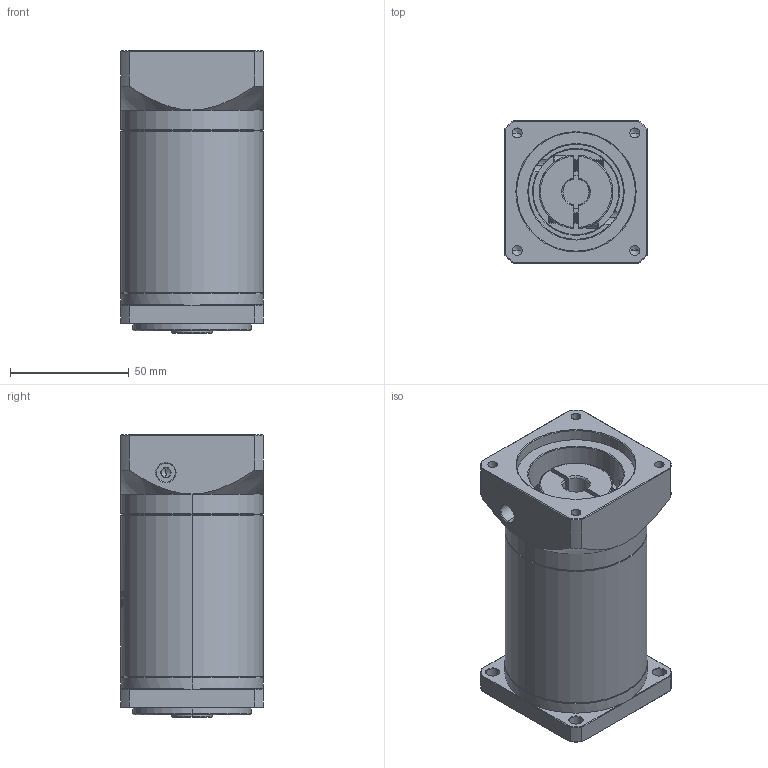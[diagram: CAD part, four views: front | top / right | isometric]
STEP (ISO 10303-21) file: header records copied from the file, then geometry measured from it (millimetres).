
FILE_DESCRIPTION (( 'STEP AP214' ), '1' );
FILE_NAME ('ZF60-K10-L3-11-50-70-M5.STEP', '2022-04-17T11:40:19', ( '' ), ( 'Microsoft' ), 'SwSTEP 2.0', 'SolidWorks 2016', '' );
FILE_SCHEMA (( 'AUTOMOTIVE_DESIGN' ));
Length unit declared in the file: millimetre
Products named in the file (1): ZF60-K10-L3-11-50-70-M5
Bounding box: 60 x 60 x 119 mm (x, y, z)
Volume: 313394.3 mm3; surface area: 49211.2 mm2
Topology: 6 solids, 6 shells, 1451 faces, 3904 edges, 2528 vertices
Faces by surface type: plane 729, bspline 280, cone 228, cylinder 196, torus 18
Entity records: 73299 total; most frequent: CARTESIAN_POINT 23669, ORIENTED_EDGE 7784, DIRECTION 5933, EDGE_CURVE 3892, VERTEX_POINT 2528, VECTOR 2061, LINE 2061, AXIS2_PLACEMENT_3D 1936
